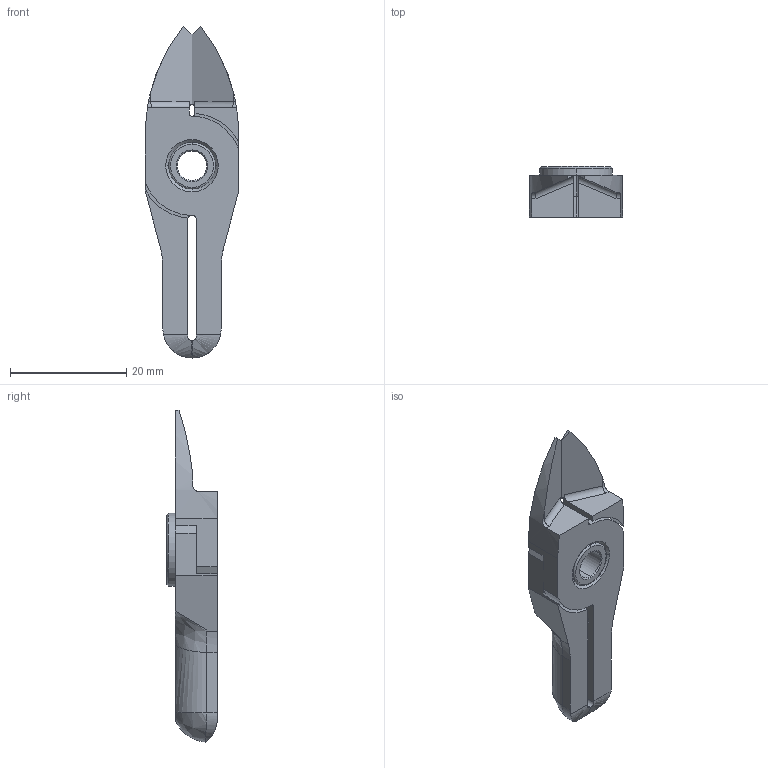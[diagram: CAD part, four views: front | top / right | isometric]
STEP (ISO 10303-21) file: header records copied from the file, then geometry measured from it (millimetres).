
FILE_DESCRIPTION (( 'STEP AP214' ), '1' );
FILE_NAME ('NY10AJT.STEP', '2019-11-28T03:41:00', ( '微软用户' ), ( '微软中国' ), 'SwSTEP 2.0', 'SolidWorks 2016', '' );
FILE_SCHEMA (( 'AUTOMOTIVE_DESIGN' ));
Length unit declared in the file: millimetre
Products named in the file (4): NY10AJT; BR2; BR1; BS
Assembly tree (3 placements, depth 2):
  NY10AJT
    BS
    BR1
    BR2
Bounding box: 16 x 8.7 x 57 mm (x, y, z)
Volume: 3422.7 mm3; surface area: 3672.4 mm2
Topology: 3 solids, 3 shells, 117 faces, 302 edges, 192 vertices
Faces by surface type: plane 37, cylinder 34, cone 22, bspline 20, torus 4
Entity records: 3939 total; most frequent: CARTESIAN_POINT 1103, ORIENTED_EDGE 596, DIRECTION 526, EDGE_CURVE 298, AXIS2_PLACEMENT_3D 193, VERTEX_POINT 192, VECTOR 140, LINE 140
